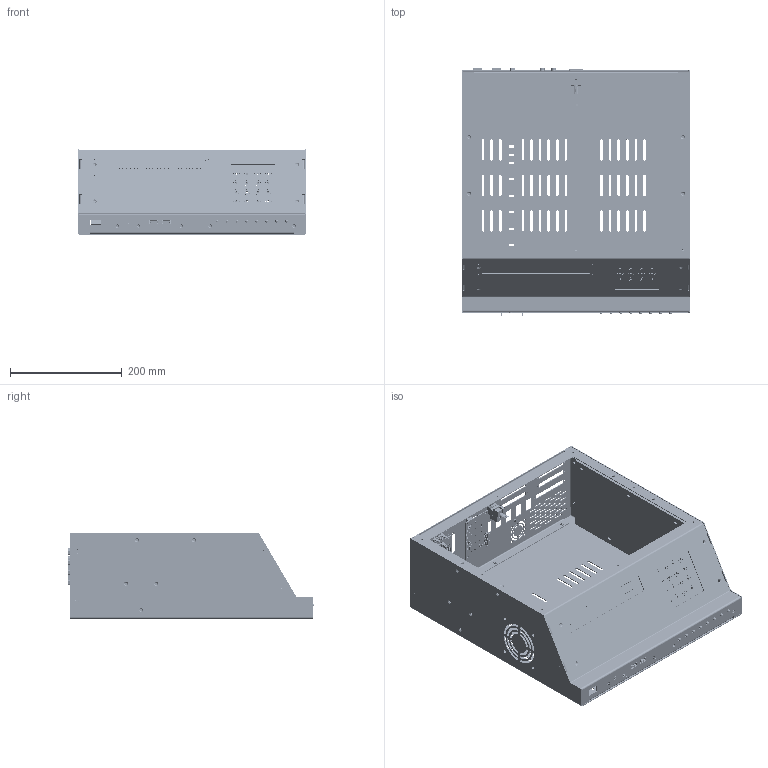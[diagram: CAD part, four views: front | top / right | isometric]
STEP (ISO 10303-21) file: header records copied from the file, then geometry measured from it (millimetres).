
FILE_DESCRIPTION(('Open CASCADE Model'),'2;1');
FILE_NAME('Open CASCADE Shape Model','2023-10-07T13:03:05',('Author'),( 'Open CASCADE'),'Open CASCADE STEP processor 7.4','Open CASCADE 7.4' ,'Unknown');
FILE_SCHEMA(('AUTOMOTIVE_DESIGN { 1 0 10303 214 1 1 1 1 }'));
Length unit declared in the file: inch
Products named in the file (55): Tiered_Consolet; Base; Open CASCADE STEP translator 7.4 3.2; 6-32_1/4in_natural_phillips_flathead_screw_100_deg; FH-632-4ZI; Rear; S-632-1ZI; Open CASCADE STEP translator 7.4 3.26; Panel; Open CASCADE STEP translator 7.4 3.28; Open CASCADE STEP translator 7.4 3.29; Cover; FEX-632; Open CASCADE STEP translator 7.4 3.48; Open CASCADE STEP translator 7.4 3.49; Open CASCADE STEP translator 7.4 3.54
Assembly tree (54 placements, depth 2):
  Tiered_Consolet
    Base
    Open CASCADE STEP translator 7.4 3.2
    6-32_1/4in_natural_phillips_flathead_screw_100_deg
    6-32_1/4in_natural_phillips_flathead_screw_100_deg
    6-32_1/4in_natural_phillips_flathead_screw_100_deg
    6-32_1/4in_natural_phillips_flathead_screw_100_deg
    FH-632-4ZI
    6-32_1/4in_natural_phillips_flathead_screw_100_deg
    6-32_1/4in_natural_phillips_flathead_screw_100_deg
    6-32_1/4in_natural_phillips_flathead_screw_100_deg
    6-32_1/4in_natural_phillips_flathead_screw_100_deg
    6-32_1/4in_natural_phillips_flathead_screw_100_deg
    6-32_1/4in_natural_phillips_flathead_screw_100_deg
    6-32_1/4in_natural_phillips_flathead_screw_100_deg
    6-32_1/4in_natural_phillips_flathead_screw_100_deg
    6-32_1/4in_natural_phillips_flathead_screw_100_deg
    6-32_1/4in_natural_phillips_flathead_screw_100_deg
    Rear
    S-632-1ZI
    S-632-1ZI
    S-632-1ZI
    S-632-1ZI
    S-632-1ZI
    S-632-1ZI
    S-632-1ZI
    Open CASCADE STEP translator 7.4 3.26
    Panel
    Open CASCADE STEP translator 7.4 3.28
    Open CASCADE STEP translator 7.4 3.29
    6-32_1/4in_natural_phillips_flathead_screw_100_deg
    6-32_1/4in_natural_phillips_flathead_screw_100_deg
    6-32_1/4in_natural_phillips_flathead_screw_100_deg
    Cover
    S-632-1ZI
    S-632-1ZI
    S-632-1ZI
    FEX-632
    FEX-632
    FEX-632
    FEX-632
    FEX-632
    FEX-632
    FEX-632
    FEX-632
    S-632-1ZI
    S-632-1ZI
    S-632-1ZI
    Open CASCADE STEP translator 7.4 3.48
    Open CASCADE STEP translator 7.4 3.49
    S-632-1ZI
    S-632-1ZI
    S-632-1ZI
    S-632-1ZI
    Open CASCADE STEP translator 7.4 3.54
Bounding box: 406.4 x 444.45 x 153.16 mm (x, y, z)
Volume: 1044222.2 mm3; surface area: 1227685.6 mm2
Topology: 113 solids, 117 shells, 11047 faces, 28877 edges, 18627 vertices
Faces by surface type: plane 7539, cylinder 2708, torus 284, cone 181, bspline 156, extrusion 119, sphere 44, revolution 16
Full cylindrical faces by diameter (mm): 0.64 x169, 0.813 x20, 0.853 x61, 0.9 x16, 0.914 x90, 0.94 x50, 0.95 x8, 0.991 x32, 1 x135, 1.016 x9, 1.19 x115, 1.499 x32, 1.5 x8, 1.6 x2, 1.702 x32, 1.778 x4, 2 x3, 2.3 x4, 3 x2, 3.048 x3, 3.175 x24, 3.2 x42, 3.264 x19, 3.48 x1, 3.5 x2, 3.988 x16, 4.224 x4, 4.445 x4, 4.762 x17, 4.9 x8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
Entity records: 748339 total; most frequent: CARTESIAN_POINT 163043, DIRECTION 107599, VECTOR 70325, LINE 70206, ORIENTED_EDGE 57518, PCURVE 57518, DEFINITIONAL_REPRESENTATION 57518, EDGE_CURVE 28759
